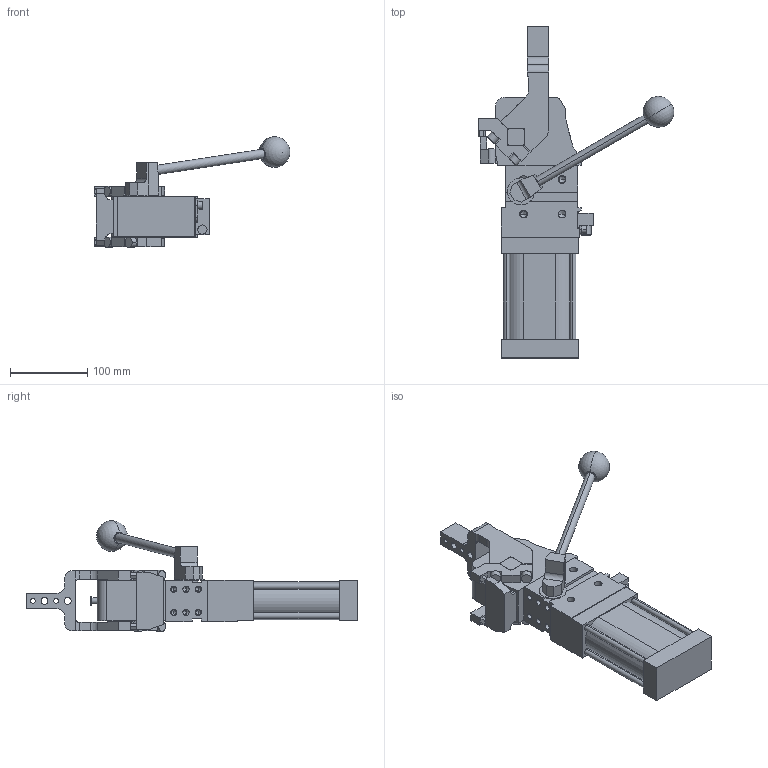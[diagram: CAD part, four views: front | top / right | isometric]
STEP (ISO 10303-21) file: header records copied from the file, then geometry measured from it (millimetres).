
FILE_DESCRIPTION (( 'STEP AP214' ), '1' );
FILE_NAME ('cplm63lath1csi1g_75.STEP', '2023-01-26T14:50:15', ( '' ), ( '' ), 'SwSTEP 2.0', 'SolidWorks 2022', '' );
FILE_SCHEMA (( 'AUTOMOTIVE_DESIGN' ));
Length unit declared in the file: millimetre
Products named in the file (5): blocchetto_VEP_0; meccanica_cplm_63_tassello_esterno; leva_h1cs_cpl63t; cplm63lath1csi1g_75; comando_manuale_cplm_63
Assembly tree (4 placements, depth 2):
  cplm63lath1csi1g_75
    meccanica_cplm_63_tassello_esterno
    blocchetto_VEP_0
    leva_h1cs_cpl63t
    comando_manuale_cplm_63
Bounding box: 254.06 x 430.5 x 143.5 mm (x, y, z)
Volume: 1901005.5 mm3; surface area: 215407.5 mm2
Topology: 4 solids, 4 shells, 467 faces, 1233 edges, 769 vertices
Faces by surface type: plane 248, cylinder 167, cone 50, sphere 2
Entity records: 15712 total; most frequent: CARTESIAN_POINT 2506, DIRECTION 2498, ORIENTED_EDGE 2364, EDGE_CURVE 1182, AXIS2_PLACEMENT_3D 848, LINE 802, VECTOR 802, VERTEX_POINT 766
